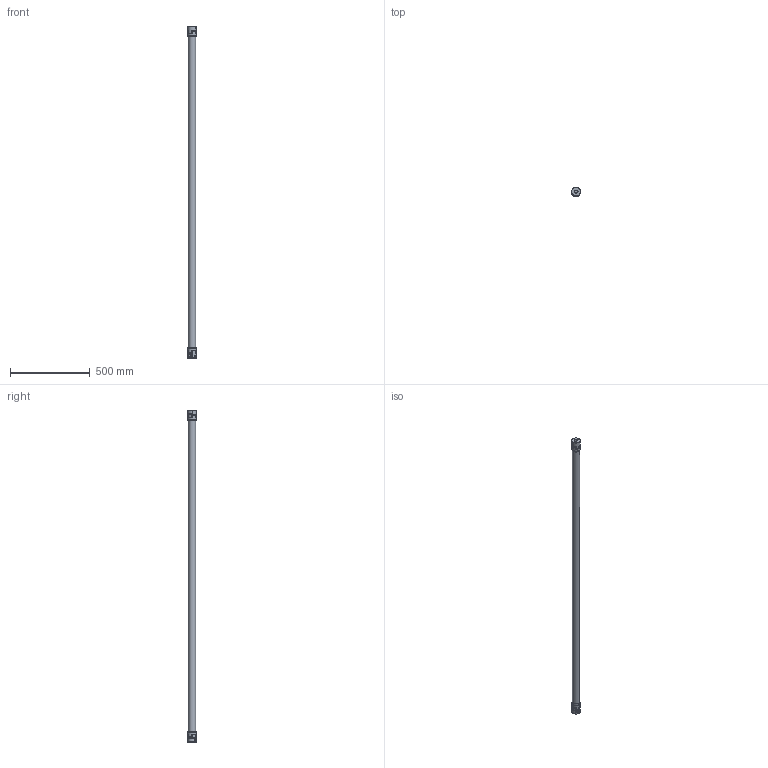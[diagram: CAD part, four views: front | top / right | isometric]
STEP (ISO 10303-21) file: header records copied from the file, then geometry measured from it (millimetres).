
FILE_DESCRIPTION(/* description */ ('STEP AP214'),/* implementation_level */ '2;1');
FILE_NAME(/* name */ 'OSR 24 MTJ80 LM 2180 F18 F18',/* time_stamp */ '2026-03-02T16:37:52+01:00',/* author */ ('License CC BY-ND 4.0'),/* organization */ ('CADENAS'),/* preprocessor_version */ 'ST-DEVELOPER v20',/* originating_system */ 'PARTsolutions',/* authorisation */ ' ');
FILE_SCHEMA (('AUTOMOTIVE_DESIGN {1 0 10303 214 3 1 1}'));
Length unit declared in the file: millimetre
Products named in the file (6): OSR 24 MTJ80 LM 2180 F18 F18; MTJ80OSR24F18-EH-DS; OSR24-S; OSR24-IH; MTJ802421802080-T; MTJ80OSR24F18-EH-DRS
Assembly tree (7 placements, depth 2):
  OSR 24 MTJ80 LM 2180 F18 F18
    MTJ80OSR24F18-EH-DS
    OSR24-S  x2
    OSR24-IH  x2
    MTJ802421802080-T
    MTJ80OSR24F18-EH-DRS
Bounding box: 55 x 55 x 2080 mm (x, y, z)
Volume: 930416.8 mm3; surface area: 596118.1 mm2
Topology: 7 solids, 7 shells, 272 faces, 702 edges, 468 vertices
Faces by surface type: cylinder 134, plane 98, torus 34, cone 6
Full cylindrical faces by diameter (mm): 4 x16, 6 x4, 10 x2, 18 x2, 27 x2, 40 x3, 45 x1, 55 x4
Entity records: 6813 total; most frequent: CARTESIAN_POINT 1277, DIRECTION 1068, ORIENTED_EDGE 904, AXIS2_PLACEMENT_3D 467, EDGE_CURVE 452, VERTEX_POINT 316, CIRCLE 270, EDGE_LOOP 244
